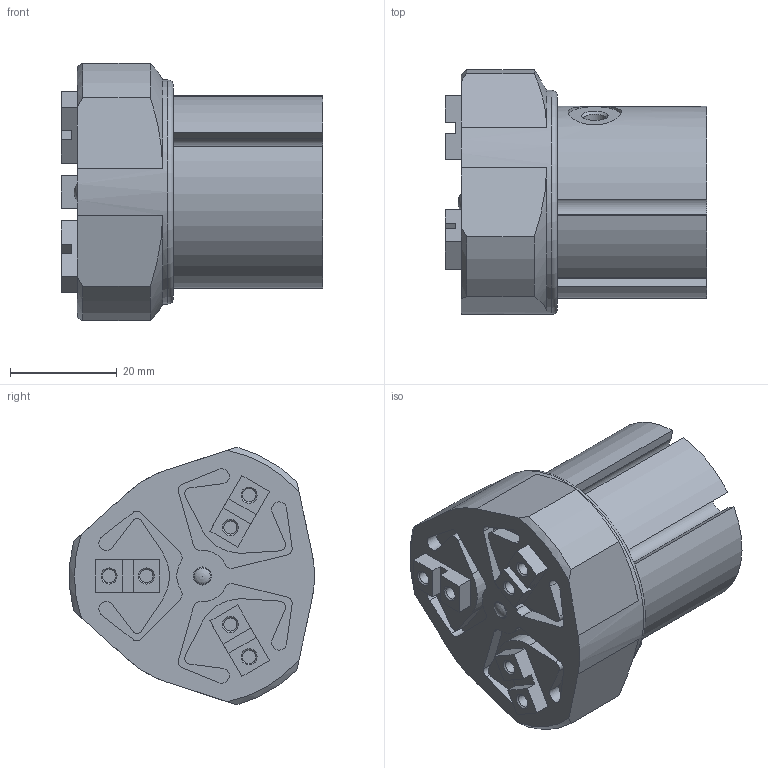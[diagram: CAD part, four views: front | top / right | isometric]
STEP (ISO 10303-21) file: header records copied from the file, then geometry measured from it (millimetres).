
FILE_DESCRIPTION(/* description */ ('STEP AP214'),/* implementation_level */ '2;1');
FILE_NAME(/* name */ 'HFCQ20_CL',/* time_stamp */ '2024-10-02T10:55:50+02:00',/* author */ ('License CC BY-ND 4.0'),/* organization */ ('CADENAS'),/* preprocessor_version */ 'ST-DEVELOPER v19.3',/* originating_system */ 'PARTsolutions',/* authorisation */ ' ');
FILE_SCHEMA (('AUTOMOTIVE_DESIGN {1 0 10303 214 3 1 1}'));
Length unit declared in the file: millimetre
Products named in the file (5): HFCQ20_CL; HFCQ20(CL)_d; HFCQ20(CL)_body; HFCQ20(CL)_arm; HFCQ20(CL)_cover
Assembly tree (6 placements, depth 2):
  HFCQ20_CL
    HFCQ20(CL)_d
    HFCQ20(CL)_body
    HFCQ20(CL)_arm  x3
    HFCQ20(CL)_cover
Bounding box: 49 x 45.9 x 48.3 mm (x, y, z)
Volume: 69485.8 mm3; surface area: 21521.1 mm2
Topology: 5 solids, 5 shells, 231 faces, 580 edges, 384 vertices
Faces by surface type: plane 143, cylinder 60, cone 26, torus 1, sphere 1
Full cylindrical faces by diameter (mm): 2.459 x6, 3 x3, 3.242 x3, 4.134 x2, 6 x3, 10 x2, 21 x1, 36.5 x1, 40 x1, 42 x1
Entity records: 5838 total; most frequent: CARTESIAN_POINT 1100, DIRECTION 970, ORIENTED_EDGE 912, EDGE_CURVE 456, AXIS2_PLACEMENT_3D 348, VERTEX_POINT 319, LINE 274, VECTOR 274
